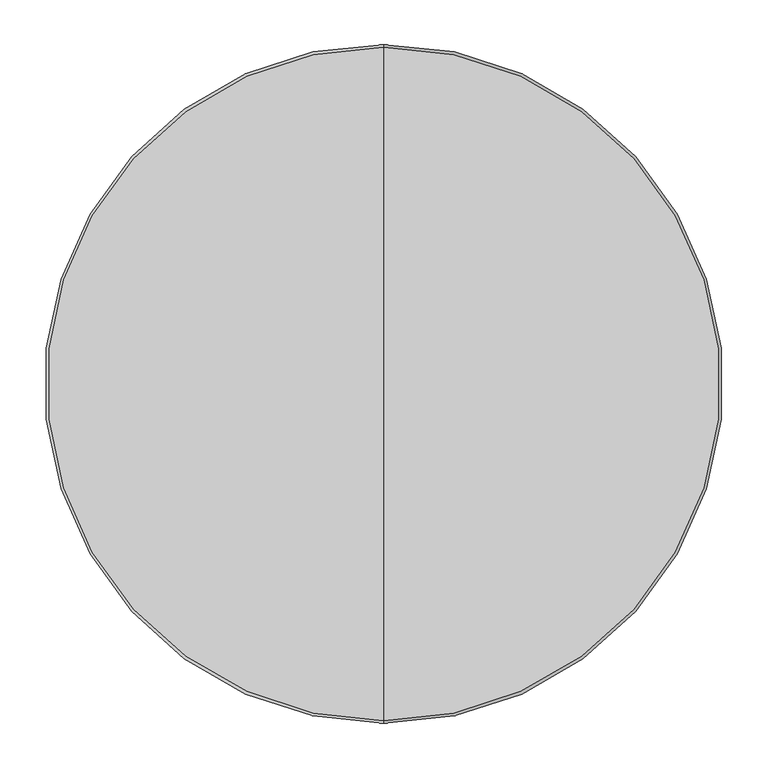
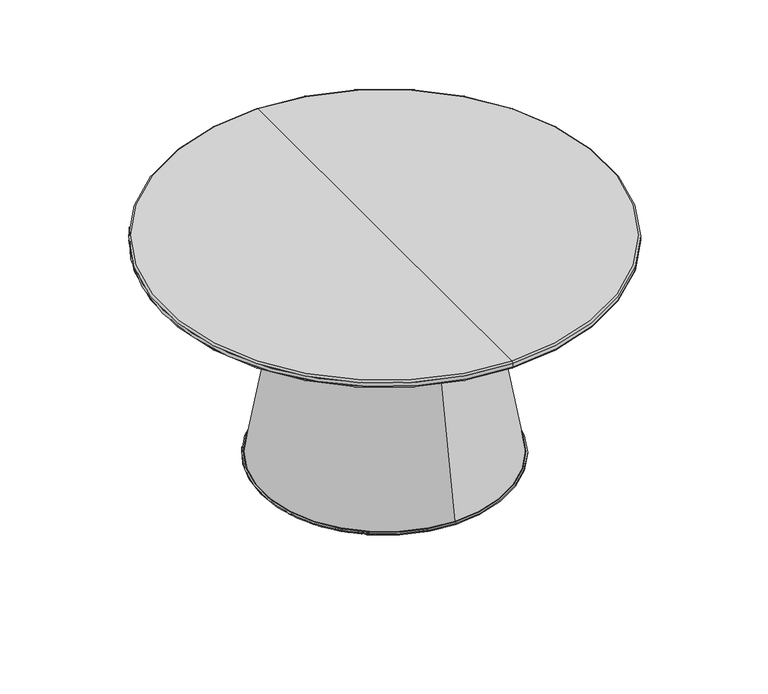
"""IFC4 building model written with IfcOpenShell, lengths in millimetres: furniture geometry, Stance_HC-Villa_Tables : VIT30D16-L-S."""

import ifcopenshell
import ifcopenshell.guid

model = None  # the IFC model being written
_history = None  # IfcOwnerHistory: only IFC2X3 demands one
_inside = {}  # id of a spatial element -> (the spatial element, [elements in it])
_under = {}  # id of a project, library or spatial element -> (it, [spatial elements below it])
_declared = {}  # id of a project -> (the project, [libraries it declares])
_typed = {}  # id of a type object -> (the type object, [elements of that type])
_made_of = {}  # id of a material, layer set ... -> (it, [elements and type objects made of it])


def new_model(schema):
    """Start an empty IFC model of exactly this schema.

    Asked for "IFC4X3", IfcOpenShell would pick the latest addendum, in which some entities
    have other attributes; the version numbers below select the first issue.
    IFC2X3 requires an IfcOwnerHistory on every rooted entity: one is made here for all.
    """
    global model, _history
    if schema == "IFC4X3":
        model = ifcopenshell.file(schema_version=(4, 3, 0, 0))
    else:
        model = ifcopenshell.file(schema=schema)
    _inside.clear()
    _under.clear()
    _declared.clear()
    _typed.clear()
    _made_of.clear()
    _history = None
    if model.schema == "IFC2X3":
        org = make("IfcOrganization", Name="unknown")
        user = make(
            "IfcPersonAndOrganization",
            ThePerson=make("IfcPerson", FamilyName="unknown"),
            TheOrganization=org,
        )
        app = make(
            "IfcApplication",
            ApplicationDeveloper=org,
            Version="unknown",
            ApplicationFullName="unknown",
            ApplicationIdentifier="unknown",
        )
        _history = make(
            "IfcOwnerHistory",
            OwningUser=user,
            OwningApplication=app,
            ChangeAction="ADDED",
            CreationDate=0,
        )
    return model


def make(cls, **values):
    """One entity of the class cls with the attributes given. An attribute that is None is left unset."""
    return model.create_entity(
        cls, **{name: value for name, value in values.items() if value is not None}
    )


def rooted(cls, **values):
    """An entity with a GlobalId (a new one), such as an element, a storey or a relation."""
    return make(cls, GlobalId=ifcopenshell.guid.new(), OwnerHistory=_history, **values)


def si_unit(unit_type, name, prefix=None):
    """IfcSIUnit, for example si_unit("LENGTHUNIT", "METRE", prefix="MILLI")."""
    return make("IfcSIUnit", UnitType=unit_type, Prefix=prefix, Name=name)


def assignment(units):
    """IfcUnitAssignment: the units of a project."""
    return None if units is None else make("IfcUnitAssignment", Units=units)


def point(xyz):
    """IfcCartesianPoint."""
    return None if xyz is None else make("IfcCartesianPoint", Coordinates=xyz)


def direction(xyz):
    """IfcDirection."""
    return None if xyz is None else make("IfcDirection", DirectionRatios=xyz)


def frame(location, z_axis=None, x_axis=None):
    """IfcAxis2Placement3D, a coordinate frame: its origin and axes. An axis left out is left unset."""
    return make(
        "IfcAxis2Placement3D",
        Location=point(location),
        Axis=direction(z_axis),
        RefDirection=direction(x_axis),
    )


def frame_2d(location, x_axis=None):
    """IfcAxis2Placement2D, a coordinate frame in the plane: its origin and x axis."""
    return make(
        "IfcAxis2Placement2D", Location=point(location), RefDirection=direction(x_axis)
    )


def origin():
    """The frame at (0, 0, 0) with its axes left unset."""
    return frame((0.0, 0.0, 0.0))


def origin_with_axes():
    """The frame at (0, 0, 0) with the z axis (0, 0, 1) and the x axis (1, 0, 0) written out."""
    return frame((0.0, 0.0, 0.0), z_axis=(0.0, 0.0, 1.0), x_axis=(1.0, 0.0, 0.0))


def place(relative_to, where):
    """IfcLocalPlacement: puts the frame where relative to a parent placement (None: the world)."""
    return make(
        "IfcLocalPlacement", PlacementRelTo=relative_to, RelativePlacement=where
    )


def context(
    kind, dimensions, precision=None, world=None, true_north=None, identifier=None
):
    """IfcGeometricRepresentationContext, for example the 3D "Model" context."""
    return make(
        "IfcGeometricRepresentationContext",
        ContextIdentifier=identifier,
        ContextType=kind,
        CoordinateSpaceDimension=dimensions,
        Precision=precision,
        WorldCoordinateSystem=world,
        TrueNorth=true_north,
    )


def project(units=None, contexts=None):
    """IfcProject with its units and contexts."""
    return rooted(
        "IfcProject",
        Name="project",
        RepresentationContexts=contexts,
        UnitsInContext=assignment(units),
    )


def spatial(cls, under=None, at=None, **own):
    """A site, building, storey or space (cls), placed at a placement, below another one or the project."""
    s = rooted(cls, ObjectPlacement=at, **own)
    if under is not None:
        _under.setdefault(under.id(), (under, []))[1].append(s)
    return s


def polyline(points):
    """IfcPolyline through the points."""
    return make("IfcPolyline", Points=[point(p) for p in points])


def circle_curve(where, radius):
    """IfcCircle in the frame where."""
    return make("IfcCircle", Position=where, Radius=radius)


def ellipse_curve(where, semi_axis1, semi_axis2):
    """IfcEllipse in the frame where."""
    return make(
        "IfcEllipse", Position=where, SemiAxis1=semi_axis1, SemiAxis2=semi_axis2
    )


def trimmed(basis, trim1, trim2, sense, master):
    """IfcTrimmedCurve: the piece of a basis curve between two trims."""
    return make(
        "IfcTrimmedCurve",
        BasisCurve=basis,
        Trim1=trim1,
        Trim2=trim2,
        SenseAgreement=sense,
        MasterRepresentation=master,
    )


def segment(curve, same_sense, transition):
    """IfcCompositeCurveSegment."""
    return make(
        "IfcCompositeCurveSegment",
        Transition=transition,
        SameSense=same_sense,
        ParentCurve=curve,
    )


def composite_curve(segments, self_intersect=None):
    """IfcCompositeCurve: segments joined end to end."""
    return make("IfcCompositeCurve", Segments=segments, SelfIntersect=self_intersect)


def outline(outer, holes=None, kind="AREA"):
    """IfcArbitraryClosedProfileDef: a profile drawn as a closed curve; with holes, ...WithVoids."""
    if holes is None:
        return make("IfcArbitraryClosedProfileDef", ProfileType=kind, OuterCurve=outer)
    return make(
        "IfcArbitraryProfileDefWithVoids",
        ProfileType=kind,
        OuterCurve=outer,
        InnerCurves=holes,
    )


def extrude(swept, where, along, depth):
    """IfcExtrudedAreaSolid: the profile swept, set in the frame where, extruded along a direction by depth."""
    return make(
        "IfcExtrudedAreaSolid",
        SweptArea=swept,
        Position=where,
        ExtrudedDirection=direction(along),
        Depth=depth,
    )


def shape(context_of_items, identifier, shape_type, items):
    """IfcShapeRepresentation: the items that make up one representation, for example the "Body"."""
    return make(
        "IfcShapeRepresentation",
        ContextOfItems=context_of_items,
        RepresentationIdentifier=identifier,
        RepresentationType=shape_type,
        Items=items,
    )


def source(mapping_origin, context_of_items, identifier, shape_type, items):
    """IfcRepresentationMap: a shape defined once, which mapped items show again and again."""
    return make(
        "IfcRepresentationMap",
        MappingOrigin=mapping_origin,
        MappedRepresentation=shape(context_of_items, identifier, shape_type, items),
    )


def transform(
    local_origin,
    x_axis=None,
    y_axis=None,
    z_axis=None,
    scale=None,
    scale2=None,
    scale3=None,
    uniform=True,
):
    """IfcCartesianTransformationOperator3D, or its non-uniform kind. x_axis, y_axis, z_axis: its Axis1, 2, 3."""
    if uniform:
        return make(
            "IfcCartesianTransformationOperator3D",
            Axis1=direction(x_axis),
            Axis2=direction(y_axis),
            LocalOrigin=point(local_origin),
            Scale=scale,
            Axis3=direction(z_axis),
        )
    return make(
        "IfcCartesianTransformationOperator3DnonUniform",
        Axis1=direction(x_axis),
        Axis2=direction(y_axis),
        LocalOrigin=point(local_origin),
        Scale=scale,
        Axis3=direction(z_axis),
        Scale2=scale2,
        Scale3=scale3,
    )


def mapped(mapping_source, mapping_target):
    """IfcMappedItem: shows the shape of a source again, moved by a transform."""
    return make(
        "IfcMappedItem", MappingSource=mapping_source, MappingTarget=mapping_target
    )


def made_of(thing, what):
    """Note that an element or type object is made of a material, layer set ...; save() writes the relation."""
    if what is not None:
        _made_of.setdefault(what.id(), (what, []))[1].append(thing)
    return thing


def element(
    cls,
    number,
    at=None,
    inside=None,
    cuts=None,
    type_object=None,
    material=None,
    context=None,
    identifier="Body",
    shape_type=None,
    held_by="IfcProductDefinitionShape",
    body=None,
    shapes=None,
    **own,
):
    """One element of the class cls, such as IfcWall. Its Tag is "e" and its number.

    at: its placement. inside: the storey or other place that contains it. cuts: it is an
    opening in that element (IfcRelVoidsElement). A single representation is given by context,
    identifier, shape_type and body (its items); several are given by shapes. held_by: the class
    of the entity that holds the representations. save() writes the other relations.
    """
    e = rooted(cls, Tag="e%d" % number, ObjectPlacement=at, **own)
    if body is not None:
        shapes = [shape(context, identifier, shape_type, body)]
    if shapes is not None:
        e.Representation = make(held_by, Representations=shapes)
    if inside is not None:
        _inside.setdefault(inside.id(), (inside, []))[1].append(e)
    if cuts is not None:
        rooted(
            "IfcRelVoidsElement", RelatingBuildingElement=cuts, RelatedOpeningElement=e
        )
    if type_object is not None:
        _typed.setdefault(type_object.id(), (type_object, []))[1].append(e)
    return made_of(e, material)


def aggregate(whole, parts):
    """IfcRelAggregates: a whole, such as a stair, and the parts it consists of."""
    return rooted("IfcRelAggregates", RelatingObject=whole, RelatedObjects=parts)


def save(model, path):
    """Write the relations noted so far, then the file.

    IfcRelAggregates (storeys below a building ...), IfcRelContainedInSpatialStructure (elements
    in a storey), IfcRelDefinesByType, IfcRelAssociatesMaterial and IfcRelDeclares: one each for
    every whole, place, type object, material and project.
    """
    for whole, parts in _under.values():
        aggregate(whole, parts)
    for where, things in _inside.values():
        rooted(
            "IfcRelContainedInSpatialStructure",
            RelatedElements=things,
            RelatingStructure=where,
        )
    for kind, things in _typed.values():
        rooted("IfcRelDefinesByType", RelatedObjects=things, RelatingType=kind)
    for what, things in _made_of.values():
        rooted("IfcRelAssociatesMaterial", RelatedObjects=things, RelatingMaterial=what)
    for by, libraries in _declared.values():
        rooted("IfcRelDeclares", RelatingContext=by, RelatedDefinitions=libraries)
    model.write(path)


def plane_surface(at):
    """IfcPlane: the flat surface through the origin of the frame at, square to its z axis."""
    return make("IfcPlane", Position=at)


def cylinder_surface(at, radius):
    """IfcCylindricalSurface: all points at the distance radius from the z axis of the frame at."""
    return make("IfcCylindricalSurface", Position=at, Radius=radius)


def revolved_surface(curve, axis_point, axis_direction):
    """IfcSurfaceOfRevolution: the curve turned about the line through axis_point along axis_direction."""
    return make(
        "IfcSurfaceOfRevolution",
        SweptCurve=make("IfcArbitraryOpenProfileDef", ProfileType="CURVE", Curve=curve),
        AxisPosition=make("IfcAxis1Placement", Location=point(axis_point), Axis=direction(axis_direction)),
    )


def advanced_brep(points, edges, surfaces, faces):
    """IfcAdvancedBrep: a solid bounded by faces that lie on surfaces and meet in shared edges.

    An edge is (start, end): straight between two places in points (the first is 0);
    or (start, end, curve); or (start, end, curve, False) where it runs against its curve.
    A face is (place in surfaces, loops), or (place, loops, False) where it looks against
    its surface's normal. A loop lists edges by number (the first is 1), with a minus sign
    where the edge is run from its end to its start. The first loop is the outer one.
    """
    corners = [point(p) for p in points]
    vertices = [make("IfcVertexPoint", VertexGeometry=c) for c in corners]
    made = []
    for start, end, *more in edges:
        made.append(
            make(
                "IfcEdgeCurve",
                EdgeStart=vertices[start],
                EdgeEnd=vertices[end],
                EdgeGeometry=more[0] if more else make("IfcPolyline", Points=[corners[start], corners[end]]),
                SameSense=more[1] if len(more) > 1 else True,
            )
        )
    hull = []
    for where, loops, *sense in faces:
        bounds = []
        for j, loop in enumerate(loops):
            ring = [make("IfcOrientedEdge", EdgeElement=made[abs(k) - 1], Orientation=k > 0) for k in loop]
            bounds.append(
                make(
                    "IfcFaceOuterBound" if j == 0 else "IfcFaceBound",
                    Bound=make("IfcEdgeLoop", EdgeList=ring),
                    Orientation=True,
                )
            )
        hull.append(make("IfcAdvancedFace", Bounds=bounds, FaceSurface=surfaces[where], SameSense=sense[0] if sense else True))
    return make("IfcAdvancedBrep", Outer=make("IfcClosedShell", CfsFaces=hull))


def furniture_b3eed9f7(model_context):
    return source(origin(), model_context, "Body", "SolidModel", [
        advanced_brep(
        [(0.0, -143.8304782, 381.0), (0.0, 143.8304782, 381.0), (0.0, 209.2542601, 12.7402931), (0.0, -209.2542601, 12.7402931), (0.0, 0.0, 381.0), (0.0, 0.0, 12.7402931)],
        [
            (0, 1, circle_curve(frame((0.0, 0.0, 381.0), z_axis=(0.0, 0.0, -1.0), x_axis=(0.0, 1.0, 0.0)), 143.8304782)),
            (1, 2),
            (2, 3, circle_curve(frame((0.0, 0.0, 12.7402931), z_axis=(0.0, 0.0, 1.0), x_axis=(0.0, 1.0, 0.0)), 209.2542601)),
            (3, 0),
            (1, 0, circle_curve(frame((0.0, 0.0, 381.0), z_axis=(0.0, 0.0, -1.0), x_axis=(0.0, 1.0, 0.0)), 143.8304782)),
            (3, 2, circle_curve(frame((0.0, 0.0, 12.7402931), z_axis=(0.0, 0.0, 1.0), x_axis=(0.0, 1.0, 0.0)), 209.2542601)),
            (4, 1),
            (0, 4),
            (2, 5),
            (5, 3),
        ],
        [
            revolved_surface(polyline([(0.0, 209.2542601, 12.7402931), (0.0, 143.8304782, 381.0)]), (0.0, 0.0, 381.0), (0.0, 0.0, 1.0)),
            plane_surface(frame((0.0, 0.0, 381.0), z_axis=(0.0, 0.0, 1.0), x_axis=(0.0, 1.0, 0.0))),
            plane_surface(frame((0.0, 0.0, 12.7402931), z_axis=(0.0, 0.0, -1.0), x_axis=(0.0, 1.0, 0.0))),
        ],
        [
            (0, [[1, 2, 3, 4]]),
            (0, [[5, -4, 6, -2]]),
            (1, [[7, -1, 8]]),
            (1, [[-8, -5, -7]]),
            (2, [[-3, 9, 10]]),
            (2, [[-6, -10, -9]]),
        ],
    ),
        advanced_brep(
        [(0.0, -211.1240996, 7.9463926), (0.0, 211.1240996, 7.9463926), (0.0, 209.1775078, 7.9463926), (0.0, -209.1775078, 7.9463926), (0.0, -212.7493546, 9.5716476), (0.0, 212.7493546, 9.5716476), (0.0, -212.7493546, 11.1150382), (0.0, 212.7493546, 11.1150382), (0.0, -211.1240996, 12.7402931), (0.0, 211.1240996, 12.7402931), (0.0, -209.1775078, 12.7402931), (0.0, 209.1775078, 12.7402931)],
        [
            (0, 1, circle_curve(frame((0.0, 0.0, 7.9463926), z_axis=(0.0, 0.0, -1.0), x_axis=(0.0, 1.0, 0.0)), 211.1240996)),
            (1, 2),
            (2, 3, circle_curve(frame((0.0, 0.0, 7.9463926), z_axis=(0.0, 0.0, 1.0), x_axis=(0.0, 1.0, 0.0)), 209.1775078)),
            (3, 0),
            (1, 0, circle_curve(frame((0.0, 0.0, 7.9463926), z_axis=(0.0, 0.0, -1.0), x_axis=(0.0, 1.0, 0.0)), 211.1240996)),
            (3, 2, circle_curve(frame((0.0, 0.0, 7.9463926), z_axis=(0.0, 0.0, 1.0), x_axis=(0.0, 1.0, 0.0)), 209.1775078)),
            (4, 5, circle_curve(frame((0.0, 0.0, 9.5716476), z_axis=(0.0, 0.0, -1.0), x_axis=(0.0, 1.0, 0.0)), 212.7493546)),
            (5, 1),
            (0, 4),
            (5, 4, circle_curve(frame((0.0, 0.0, 9.5716476), z_axis=(0.0, 0.0, -1.0), x_axis=(0.0, 1.0, 0.0)), 212.7493546)),
            (6, 7, circle_curve(frame((0.0, 0.0, 11.1150382), z_axis=(0.0, 0.0, -1.0), x_axis=(0.0, 1.0, 0.0)), 212.7493546)),
            (7, 5),
            (4, 6),
            (7, 6, circle_curve(frame((0.0, 0.0, 11.1150382), z_axis=(0.0, 0.0, -1.0), x_axis=(0.0, 1.0, 0.0)), 212.7493546)),
            (8, 9, circle_curve(frame((0.0, 0.0, 12.7402931), z_axis=(0.0, 0.0, -1.0), x_axis=(0.0, 1.0, 0.0)), 211.1240996)),
            (9, 7),
            (6, 8),
            (9, 8, circle_curve(frame((0.0, 0.0, 12.7402931), z_axis=(0.0, 0.0, -1.0), x_axis=(0.0, 1.0, 0.0)), 211.1240996)),
            (10, 11, circle_curve(frame((0.0, 0.0, 12.7402931), z_axis=(0.0, 0.0, -1.0), x_axis=(0.0, 1.0, 0.0)), 209.1775078)),
            (11, 9),
            (8, 10),
            (11, 10, circle_curve(frame((0.0, 0.0, 12.7402931), z_axis=(0.0, 0.0, -1.0), x_axis=(0.0, 1.0, 0.0)), 209.1775078)),
            (2, 11),
            (10, 3),
        ],
        [
            plane_surface(frame((0.0, 0.0, 7.9463926), z_axis=(0.0, 0.0, -1.0), x_axis=(0.0, 1.0, 0.0))),
            revolved_surface(polyline([(0.0, 211.1240996, 7.9463926), (0.0, 212.7493546, 9.5716476)]), (0.0, 0.0, 0.0), (0.0, 0.0, 1.0)),
            cylinder_surface(frame((0.0, 0.0, 0.0), z_axis=(0.0, 0.0, 1.0), x_axis=(0.0, 1.0, 0.0)), 212.7493546),
            revolved_surface(polyline([(0.0, 212.7493546, 11.1150382), (0.0, 211.1240996, 12.7402931)]), (0.0, 0.0, 0.0), (0.0, 0.0, 1.0)),
            plane_surface(frame((0.0, 0.0, 12.7402931), z_axis=(0.0, 0.0, 1.0), x_axis=(0.0, 1.0, 0.0))),
            revolved_surface(polyline([(0.0, 209.1775078, 12.7402931), (0.0, 209.1775078, 7.9463926)]), (0.0, 0.0, 0.0), (0.0, 0.0, 1.0)),
        ],
        [
            (0, [[1, 2, 3, 4]]),
            (0, [[5, -4, 6, -2]]),
            (1, [[7, 8, -1, 9]]),
            (1, [[10, -9, -5, -8]]),
            (2, [[11, 12, -7, 13]]),
            (2, [[14, -13, -10, -12]]),
            (3, [[15, 16, -11, 17]]),
            (3, [[18, -17, -14, -16]]),
            (4, [[19, 20, -15, 21]]),
            (4, [[22, -21, -18, -20]]),
            (5, [[-3, 23, -19, 24]]),
            (5, [[-6, -24, -22, -23]]),
        ],
    ),
        extrude(outline(composite_curve([segment(trimmed(circle_curve(frame_2d((0.0, 177.7982666)), 20.6375), [point((-20.6375, 177.7982666))], [point((20.6375, 177.7982666))], False, "CARTESIAN"), True, "CONTINUOUS"), segment(trimmed(circle_curve(frame_2d((0.0, 177.7982666)), 20.6375), [point((20.6375, 177.7982666))], [point((-20.6375, 177.7982666))], False, "CARTESIAN"), True, "CONTINUOUS")], self_intersect=False)), origin_with_axes(), (0.0, 0.0, 1.0), 12.7),
        extrude(outline(composite_curve([segment(trimmed(circle_curve(frame_2d((-153.9778157, 88.8991333)), 20.6375), [point((-174.6153157, 88.8991333))], [point((-133.3403157, 88.8991333))], False, "CARTESIAN"), True, "CONTINUOUS"), segment(trimmed(circle_curve(frame_2d((-153.9778157, 88.8991333)), 20.6375), [point((-133.3403157, 88.8991333))], [point((-174.6153157, 88.8991333))], False, "CARTESIAN"), True, "CONTINUOUS")], self_intersect=False)), origin_with_axes(), (0.0, 0.0, 1.0), 12.7),
        extrude(outline(composite_curve([segment(trimmed(circle_curve(frame_2d((153.9778157, 88.8991333)), 20.6375), [point((133.3403157, 88.8991333))], [point((174.6153157, 88.8991333))], False, "CARTESIAN"), True, "CONTINUOUS"), segment(trimmed(circle_curve(frame_2d((153.9778157, 88.8991333)), 20.6375), [point((174.6153157, 88.8991333))], [point((133.3403157, 88.8991333))], False, "CARTESIAN"), True, "CONTINUOUS")], self_intersect=False)), origin_with_axes(), (0.0, 0.0, 1.0), 12.7),
        extrude(outline(composite_curve([segment(trimmed(circle_curve(frame_2d((0.0, -177.7982666)), 20.6375), [point((-20.6375, -177.7982666))], [point((20.6375, -177.7982666))], False, "CARTESIAN"), True, "CONTINUOUS"), segment(trimmed(circle_curve(frame_2d((0.0, -177.7982666)), 20.6375), [point((20.6375, -177.7982666))], [point((-20.6375, -177.7982666))], False, "CARTESIAN"), True, "CONTINUOUS")], self_intersect=False)), origin_with_axes(), (0.0, 0.0, 1.0), 12.7),
        extrude(outline(composite_curve([segment(trimmed(circle_curve(frame_2d((-153.9778157, -88.8991333)), 20.6375), [point((-174.6153157, -88.8991333))], [point((-133.3403157, -88.8991333))], False, "CARTESIAN"), True, "CONTINUOUS"), segment(trimmed(circle_curve(frame_2d((-153.9778157, -88.8991333)), 20.6375), [point((-133.3403157, -88.8991333))], [point((-174.6153157, -88.8991333))], False, "CARTESIAN"), True, "CONTINUOUS")], self_intersect=False)), origin_with_axes(), (0.0, 0.0, 1.0), 12.7),
        extrude(outline(composite_curve([segment(trimmed(circle_curve(frame_2d((153.9778157, -88.8991333)), 20.6375), [point((133.3403157, -88.8991333))], [point((174.6153157, -88.8991333))], False, "CARTESIAN"), True, "CONTINUOUS"), segment(trimmed(circle_curve(frame_2d((153.9778157, -88.8991333)), 20.6375), [point((174.6153157, -88.8991333))], [point((133.3403157, -88.8991333))], False, "CARTESIAN"), True, "CONTINUOUS")], self_intersect=False)), origin_with_axes(), (0.0, 0.0, 1.0), 12.7),
        advanced_brep(
        [(0.0, -381.0, 403.225), (0.0, 381.0, 403.225), (0.0, 381.0, 397.2066493), (0.0, -381.0, 397.2066493), (0.0, 0.0, 406.4), (0.0, 377.825, 406.4), (0.0, -377.825, 406.4), (0.0, -200.025, 382.4224), (0.0, 200.025, 382.4224), (0.0, 0.0, 382.4224), (0.0, -203.2, 385.5974), (0.0, 203.2, 385.5974), (0.0, -203.2, 394.0316493), (0.0, 203.2, 394.0316493), (0.0, -377.825, 394.0316493), (0.0, 377.825, 394.0316493)],
        [
            (0, 1, circle_curve(frame((0.0, 0.0, 403.225), z_axis=(0.0, 0.0, -1.0), x_axis=(0.0, 1.0, 0.0)), 381.0)),
            (1, 2),
            (2, 3, circle_curve(frame((0.0, 0.0, 397.2066493), z_axis=(0.0, 0.0, 1.0), x_axis=(0.0, 1.0, 0.0)), 381.0)),
            (3, 0),
            (1, 0, circle_curve(frame((0.0, 0.0, 403.225), z_axis=(0.0, 0.0, -1.0), x_axis=(0.0, 1.0, 0.0)), 381.0)),
            (3, 2, circle_curve(frame((0.0, 0.0, 397.2066493), z_axis=(0.0, 0.0, 1.0), x_axis=(0.0, 1.0, 0.0)), 381.0)),
            (4, 5),
            (5, 6, circle_curve(frame((0.0, 0.0, 406.4), z_axis=(0.0, 0.0, 1.0), x_axis=(0.0, 1.0, 0.0)), 377.825)),
            (6, 4),
            (6, 5, circle_curve(frame((0.0, 0.0, 406.4), z_axis=(0.0, 0.0, 1.0), x_axis=(0.0, 1.0, 0.0)), 377.825)),
            (7, 8, circle_curve(frame((0.0, 0.0, 382.4224), z_axis=(0.0, 0.0, -1.0), x_axis=(0.0, 1.0, 0.0)), 200.025)),
            (8, 9),
            (9, 7),
            (8, 7, circle_curve(frame((0.0, 0.0, 382.4224), z_axis=(0.0, 0.0, -1.0), x_axis=(0.0, 1.0, 0.0)), 200.025)),
            (5, 1, circle_curve(frame((0.0, 377.825, 403.225), z_axis=(-1.0, 0.0, 0.0), x_axis=(0.0, 1.0, 0.0)), 3.175)),
            (0, 6, circle_curve(frame((0.0, -377.825, 403.225), z_axis=(-1.0, 0.0, 0.0), x_axis=(0.0, -1.0, 0.0)), 3.175)),
            (10, 11, circle_curve(frame((0.0, 0.0, 385.5974), z_axis=(0.0, 0.0, -1.0), x_axis=(0.0, 1.0, 0.0)), 203.2)),
            (11, 8, circle_curve(frame((0.0, 200.025, 385.5974), z_axis=(-1.0, 0.0, 0.0), x_axis=(0.0, 1.0, 0.0)), 3.175)),
            (7, 10, circle_curve(frame((0.0, -200.025, 385.5974), z_axis=(-1.0, 0.0, 0.0), x_axis=(0.0, -1.0, 0.0)), 3.175)),
            (11, 10, circle_curve(frame((0.0, 0.0, 385.5974), z_axis=(0.0, 0.0, -1.0), x_axis=(0.0, 1.0, 0.0)), 203.2)),
            (12, 13, circle_curve(frame((0.0, 0.0, 394.0316493), z_axis=(0.0, 0.0, -1.0), x_axis=(0.0, 1.0, 0.0)), 203.2)),
            (13, 11),
            (10, 12),
            (13, 12, circle_curve(frame((0.0, 0.0, 394.0316493), z_axis=(0.0, 0.0, -1.0), x_axis=(0.0, 1.0, 0.0)), 203.2)),
            (14, 15, circle_curve(frame((0.0, 0.0, 394.0316493), z_axis=(0.0, 0.0, -1.0), x_axis=(0.0, 1.0, 0.0)), 377.825)),
            (15, 13),
            (12, 14),
            (15, 14, circle_curve(frame((0.0, 0.0, 394.0316493), z_axis=(0.0, 0.0, -1.0), x_axis=(0.0, 1.0, 0.0)), 377.825)),
            (2, 15, circle_curve(frame((0.0, 377.825, 397.2066493), z_axis=(-1.0, 0.0, 0.0), x_axis=(0.0, 1.0, 0.0)), 3.175)),
            (14, 3, circle_curve(frame((0.0, -377.825, 397.2066493), z_axis=(-1.0, 0.0, 0.0), x_axis=(0.0, -1.0, 0.0)), 3.175)),
        ],
        [
            cylinder_surface(frame((0.0, 0.0, 406.4), z_axis=(0.0, 0.0, 1.0), x_axis=(0.0, 1.0, 0.0)), 381.0),
            plane_surface(frame((0.0, 0.0, 406.4), z_axis=(0.0, 0.0, 1.0), x_axis=(0.0, 1.0, 0.0))),
            plane_surface(frame((0.0, 0.0, 382.4224), z_axis=(0.0, 0.0, -1.0), x_axis=(0.0, 1.0, 0.0))),
            revolved_surface(trimmed(ellipse_curve(frame((0.0, 377.825, 403.225), z_axis=(1.0, 0.0, 0.0), x_axis=(0.0, 1.0, 0.0)), 3.175, 3.175), [point((0.0, 381.0, 403.225))], [point((0.0, 377.825, 406.4))], True, "CARTESIAN"), (0.0, 0.0, 406.4), (0.0, 0.0, 1.0)),
            revolved_surface(trimmed(ellipse_curve(frame((0.0, 200.025, 385.5974), z_axis=(1.0, 0.0, 0.0), x_axis=(0.0, 1.0, 0.0)), 3.175, 3.175), [point((0.0, 200.025, 382.4224))], [point((0.0, 203.2, 385.5974))], True, "CARTESIAN"), (0.0, 0.0, 406.4), (0.0, 0.0, 1.0)),
            cylinder_surface(frame((0.0, 0.0, 406.4), z_axis=(0.0, 0.0, 1.0), x_axis=(0.0, 1.0, 0.0)), 203.2),
            plane_surface(frame((0.0, 0.0, 394.0316493), z_axis=(0.0, 0.0, -1.0), x_axis=(0.0, 1.0, 0.0))),
            revolved_surface(trimmed(ellipse_curve(frame((0.0, 377.825, 397.2066493), z_axis=(1.0, 0.0, 0.0), x_axis=(0.0, 1.0, 0.0)), 3.175, 3.175), [point((0.0, 377.825, 394.0316493))], [point((0.0, 381.0, 397.2066493))], True, "CARTESIAN"), (0.0, 0.0, 406.4), (0.0, 0.0, 1.0)),
        ],
        [
            (0, [[1, 2, 3, 4]]),
            (0, [[5, -4, 6, -2]]),
            (1, [[7, 8, 9]]),
            (1, [[-9, 10, -7]]),
            (2, [[11, 12, 13]]),
            (2, [[14, -13, -12]]),
            (3, [[-8, 15, -1, 16]]),
            (3, [[-10, -16, -5, -15]]),
            (4, [[17, 18, -11, 19]]),
            (4, [[20, -19, -14, -18]]),
            (5, [[21, 22, -17, 23]]),
            (5, [[24, -23, -20, -22]]),
            (6, [[25, 26, -21, 27]]),
            (6, [[28, -27, -24, -26]]),
            (7, [[-3, 29, -25, 30]]),
            (7, [[-6, -30, -28, -29]]),
        ],
    ),
    ])


if __name__ == "__main__":
    model = new_model("IFC4")
    model_context = context("Model", 3, world=origin())
    ifc_project = project(units=[si_unit("LENGTHUNIT", "METRE", prefix="MILLI")], contexts=[model_context])
    site = spatial("IfcSite", under=ifc_project)
    building = spatial("IfcBuilding", under=site)
    placement = place(None, origin())
    furniture_shape = furniture_b3eed9f7(model_context)
    element("IfcFurniture", 1, ObjectType="Stance_HC-Villa_Tables : VIT30D16-L-S", at=placement, inside=building, context=model_context, shape_type="MappedRepresentation", body=[
        mapped(furniture_shape, transform((0.0, 0.0, 0.0), x_axis=(1.0, 0.0, 0.0), y_axis=(0.0, 1.0, 0.0), z_axis=(0.0, 0.0, 1.0))),
    ])
    save(model, "model.ifc")
